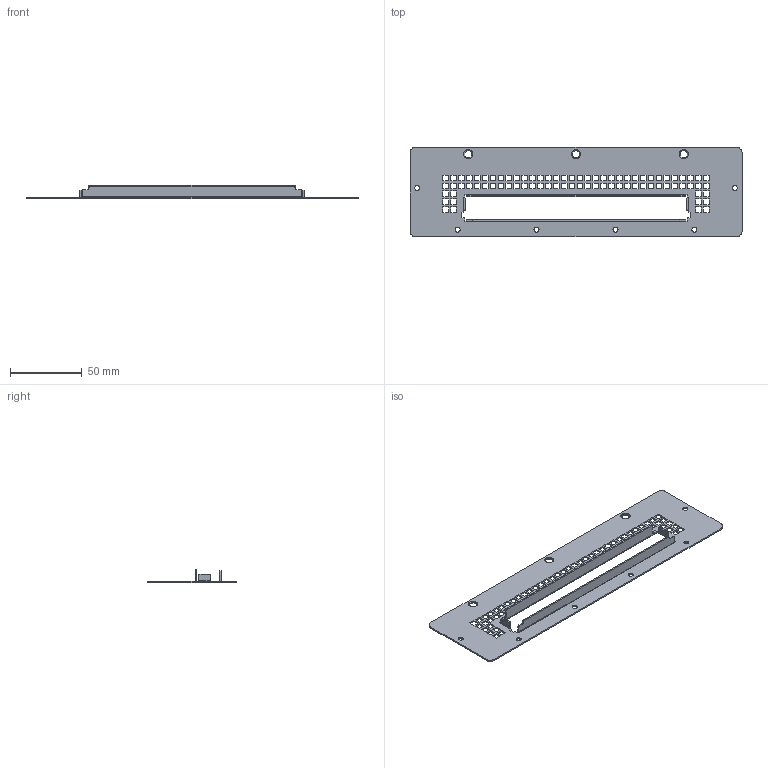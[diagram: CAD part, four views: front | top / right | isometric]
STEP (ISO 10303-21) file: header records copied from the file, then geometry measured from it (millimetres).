
FILE_DESCRIPTION((''),'2;1');
FILE_NAME('OCP3-FIXTURE-FACE-INSERT-DSFF2','2025-03-17T16:10:27',('T_Dawson'),('Dell Technologies'),'CREO PARAMETRIC BY PTC INC, 2023294','CREO PARAMETRIC BY PTC INC, 2023294','');
FILE_SCHEMA(('AUTOMOTIVE_DESIGN { 1 0 10303 214 1 1 1 1 }'));
Length unit declared in the file: millimetre
Products named in the file (1): OCP3-FIXTURE-FACE-INSERT-DSFF2
Bounding box: 231.2 x 62.58 x 9.3 mm (x, y, z)
Volume: 12810.8 mm3; surface area: 28007.1 mm2
Topology: 1 solids, 1 shells, 432 faces, 1256 edges, 847 vertices
Faces by surface type: plane 380, cylinder 46, cone 6
Entity records: 19151 total; most frequent: CARTESIAN_POINT 2619, ORIENTED_EDGE 2504, DIRECTION 2347, PRESENTATION_STYLE_ASSIGNMENT 1265, STYLED_ITEM 1265, CURVE_STYLE 1264, EDGE_CURVE 1252, VECTOR 1169
